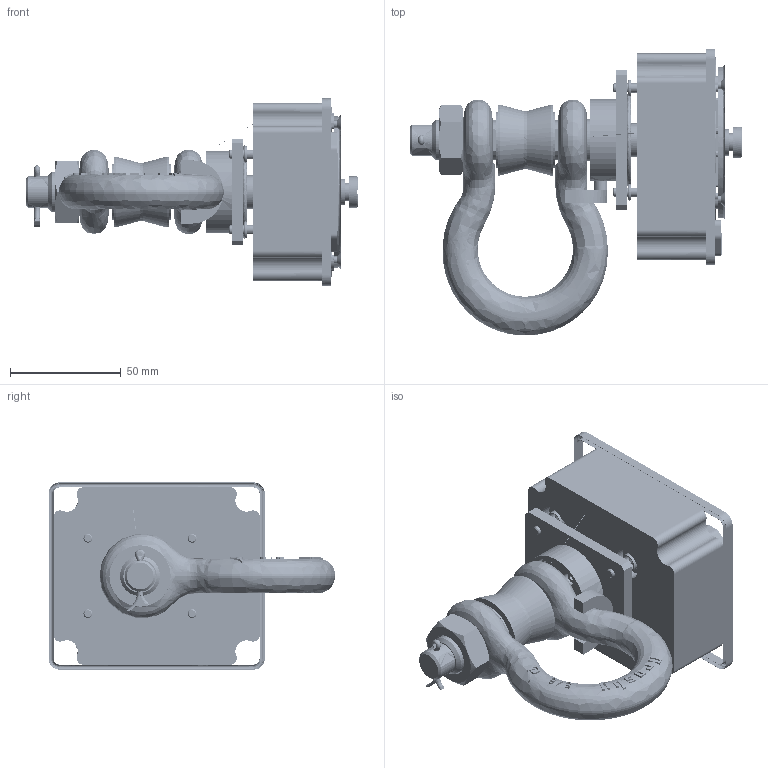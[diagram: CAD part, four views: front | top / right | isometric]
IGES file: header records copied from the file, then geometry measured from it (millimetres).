
Global section: file name: WLS3.25T; native system: Autodesk Inventor 2020; preprocessor: unknown; author: Achacko; date: 20191025.103818; units: millimetre
Bounding box: 149.67 x 129.25 x 84.4 mm (x, y, z)
Volume: 112699.4 mm3; surface area: 143288.9 mm2
Topology: 25 solids, 38 shells, 6463 faces, 17924 edges, 11662 vertices
Faces by surface type: bspline 6463
